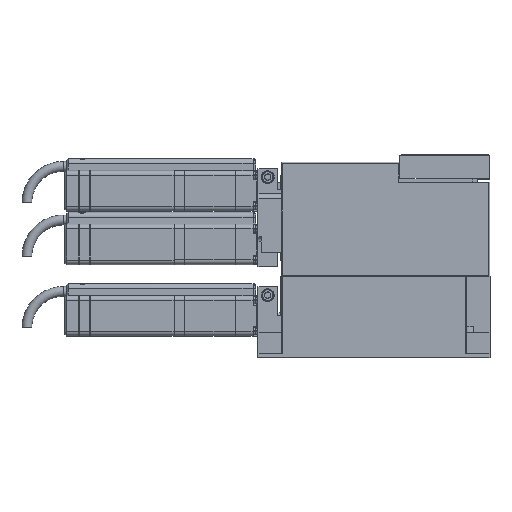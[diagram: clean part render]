
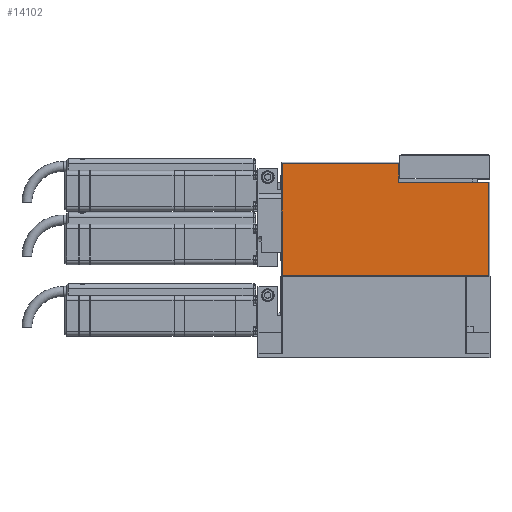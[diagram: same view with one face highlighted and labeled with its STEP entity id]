
A CAD part, top view. The second image highlights one B-rep face of the part: STEP entity #14102.
In plain terms, the highlighted planar face has unit normal (0, 0, 1).
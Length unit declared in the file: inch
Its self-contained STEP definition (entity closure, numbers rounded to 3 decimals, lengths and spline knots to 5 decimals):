
#7780=EDGE_CURVE('U3-H-I[2]',#16700,#20244,#20245,.F.);
#7833=EDGE_CURVE('U3-H-I[2]',#17242,#19014,#20319,.T.);
#11002=EDGE_CURVE('U3-H-I[2]',#16873,#20244,#24531,.F.);
#11367=EDGE_CURVE('U3-H-I[2]',#16700,#16864,#24982,.T.);
#11984=EDGE_CURVE('U3-H-I[2]',#16873,#19014,#25730,.F.);
#13328=EDGE_CURVE('U3-H-I[2]',#16864,#17242,#27344,.T.);
#14102=ADVANCED_FACE('U3-H-I[2]',(#28290),#28291,.T.);
#16700=VERTEX_POINT('',#31757);
#16864=VERTEX_POINT('',#31992);
#16873=VERTEX_POINT('',#32005);
#17242=VERTEX_POINT('',#32561);
#19014=VERTEX_POINT('',#35269);
#20244=VERTEX_POINT('',#37245);
#20245=LINE('',#37246,#37247);
#20319=LINE('',#37380,#37381);
#24531=LINE('',#44202,#44203);
#24982=LINE('',#44936,#44937);
#25730=LINE('',#46216,#46217);
#27344=LINE('',#49027,#49028);
#28290=FACE_OUTER_BOUND('',#50615,.T.);
#28291=PLANE('',#50616);
#31757=CARTESIAN_POINT('',(-1.02,-2.29,0.875));
#31992=CARTESIAN_POINT('',(-2.77,-2.29,0.875));
#32005=CARTESIAN_POINT('',(-5.03,-4.1,0.875));
#32561=CARTESIAN_POINT('',(-2.77,-1.93,0.875));
#35269=CARTESIAN_POINT('',(-5.03,-1.93,0.875));
#37245=CARTESIAN_POINT('',(-1.02,-4.1,0.875));
#37246=CARTESIAN_POINT('',(-1.02,-3.06,0.875));
#37247=VECTOR('',#57933,1.0);
#37380=CARTESIAN_POINT('',(-3.4625,-1.93,0.875));
#37381=VECTOR('',#58013,1.0);
#44202=CARTESIAN_POINT('',(-3.9,-4.1,0.875));
#44203=VECTOR('',#63068,1.0);
#44936=CARTESIAN_POINT('',(-2.8925,-2.29,0.875));
#44937=VECTOR('',#63640,1.0);
#46216=CARTESIAN_POINT('',(-5.03,-3.01125,0.875));
#46217=VECTOR('',#64526,1.0);
#49027=CARTESIAN_POINT('',(-2.77,-3.015,0.875));
#49028=VECTOR('',#66673,1.0);
#50615=EDGE_LOOP('',(#67911,#67912,#67913,#67914,#67915,#67916));
#50616=AXIS2_PLACEMENT_3D('',#67917,#67918,#67919);
#57933=DIRECTION('',(0.0,1.0,0.0));
#58013=DIRECTION('',(-1.0,0.,0.));
#63068=DIRECTION('',(-1.0,0.0,0.));
#63640=DIRECTION('',(-1.0,0.0,0.));
#64526=DIRECTION('',(0.0,-1.0,0.0));
#66673=DIRECTION('',(0.0,1.0,0.0));
#67911=ORIENTED_EDGE('',*,*,#7780,.F.);
#67912=ORIENTED_EDGE('',*,*,#11367,.T.);
#67913=ORIENTED_EDGE('',*,*,#13328,.T.);
#67914=ORIENTED_EDGE('',*,*,#7833,.T.);
#67915=ORIENTED_EDGE('',*,*,#11984,.F.);
#67916=ORIENTED_EDGE('',*,*,#11002,.T.);
#67917=CARTESIAN_POINT('',(-3.9,-3.015,0.875));
#67918=DIRECTION('',(0.,0.,1.0));
#67919=DIRECTION('',(1.0,0.,0.0));
